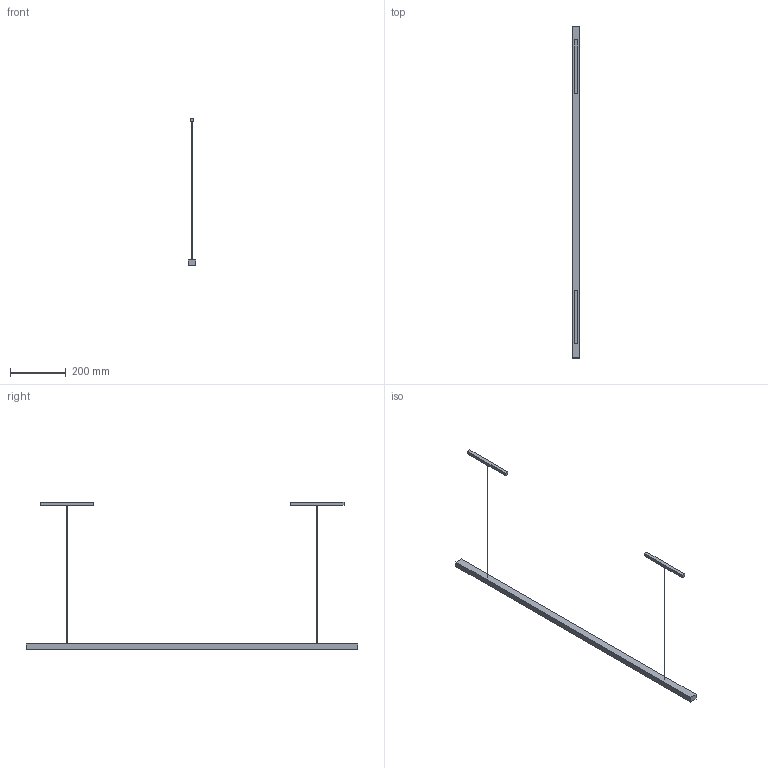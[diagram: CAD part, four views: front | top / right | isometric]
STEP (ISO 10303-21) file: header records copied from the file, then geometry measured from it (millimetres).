
FILE_DESCRIPTION(/* description */ (''),/* implementation_level */ '2;1');
FILE_NAME(/* name */ 'Linear Diffused Module 1187',/* time_stamp */ '2023-02-08T10:21:12+01:00',/* author */ (''),/* organization */ (''),/* preprocessor_version */ 'ST-DEVELOPER v16.5',/* originating_system */ 'Rhino 7.25',/* authorisation */ '');
FILE_SCHEMA (('AUTOMOTIVE_DESIGN'));
Length unit declared in the file: millimetre
Products named in the file (1): Document
Bounding box: 27.02 x 1187 x 526.21 mm (x, y, z)
Volume: 700756.2 mm3; surface area: 139726.7 mm2
Topology: 1 solids, 1 shells, 22 faces, 48 edges, 32 vertices
Faces by surface type: plane 18, cylinder 4
Entity records: 577 total; most frequent: CARTESIAN_POINT 192, ORIENTED_EDGE 96, EDGE_CURVE 48, B_SPLINE_CURVE_WITH_KNOTS 44, VERTEX_POINT 32, EDGE_LOOP 26, DIRECTION 26, AXIS2_PLACEMENT_3D 24
